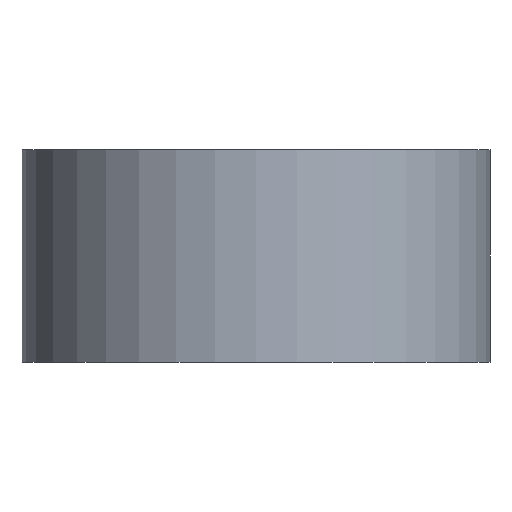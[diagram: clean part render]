
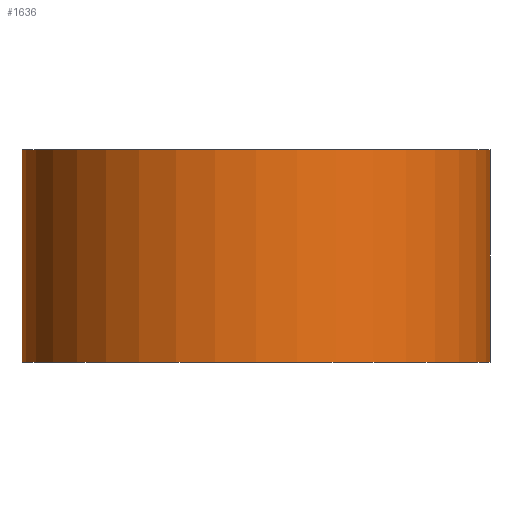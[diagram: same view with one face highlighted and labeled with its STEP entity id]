
A CAD part, front view. The second image highlights one B-rep face of the part: STEP entity #1636.
In plain terms, the highlighted cylindrical face has radius 16.5 mm (diameter 33 mm), a partial arc.
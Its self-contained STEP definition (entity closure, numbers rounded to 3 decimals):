
#6 = DIRECTION ( 'NONE',  ( 0., 0., -1. ) ) ;
#396 = CIRCLE ( 'NONE', #3217, 16.5 ) ;
#487 = LINE ( 'NONE', #1348, #517 ) ;
#514 = DIRECTION ( 'NONE',  ( 0., 0., -1. ) ) ;
#517 = VECTOR ( 'NONE', #514, 1000. ) ;
#666 = CARTESIAN_POINT ( 'NONE',  ( 0., 0., 0. ) ) ;
#860 = EDGE_LOOP ( 'NONE', ( #4641, #4460, #2536, #1599 ) ) ;
#1037 = AXIS2_PLACEMENT_3D ( 'NONE', #4220, #6, #1692 ) ;
#1051 = CARTESIAN_POINT ( 'NONE',  ( -16.5, 0., 2. ) ) ;
#1059 = DIRECTION ( 'NONE',  ( 0., 0., 1. ) ) ;
#1137 = DIRECTION ( 'NONE',  ( 1., 0., 0. ) ) ;
#1226 = AXIS2_PLACEMENT_3D ( 'NONE', #1374, #2193, #4327 ) ;
#1348 = CARTESIAN_POINT ( 'NONE',  ( 16.5, 0., 2. ) ) ;
#1374 = CARTESIAN_POINT ( 'NONE',  ( 0., 0., 15. ) ) ;
#1599 = ORIENTED_EDGE ( 'NONE', *, *, #3436, .T. ) ;
#1636 = ADVANCED_FACE ( 'NONE', ( #3796 ), #3140, .T. ) ;
#1646 = VERTEX_POINT ( 'NONE', #3502 ) ;
#1692 = DIRECTION ( 'NONE',  ( -1., 0., 0. ) ) ;
#1978 = EDGE_CURVE ( 'NONE', #5086, #3710, #2756, .T. ) ;
#2193 = DIRECTION ( 'NONE',  ( 0., 0., 1. ) ) ;
#2536 = ORIENTED_EDGE ( 'NONE', *, *, #1978, .T. ) ;
#2645 = CARTESIAN_POINT ( 'NONE',  ( 16.5, 0., 15. ) ) ;
#2756 = LINE ( 'NONE', #1051, #2969 ) ;
#2969 = VECTOR ( 'NONE', #4897, 1000. ) ;
#3140 = CYLINDRICAL_SURFACE ( 'NONE', #1037, 16.5 ) ;
#3217 = AXIS2_PLACEMENT_3D ( 'NONE', #666, #1059, #1137 ) ;
#3436 = EDGE_CURVE ( 'NONE', #3710, #1646, #396, .T. ) ;
#3502 = CARTESIAN_POINT ( 'NONE',  ( 16.5, 0., 0. ) ) ;
#3710 = VERTEX_POINT ( 'NONE', #3854 ) ;
#3796 = FACE_OUTER_BOUND ( 'NONE', #860, .T. ) ;
#3854 = CARTESIAN_POINT ( 'NONE',  ( -16.5, 0., 0. ) ) ;
#4220 = CARTESIAN_POINT ( 'NONE',  ( 0., 0., 2. ) ) ;
#4250 = CIRCLE ( 'NONE', #1226, 16.5 ) ;
#4327 = DIRECTION ( 'NONE',  ( 1., 0., 0. ) ) ;
#4460 = ORIENTED_EDGE ( 'NONE', *, *, #4987, .F. ) ;
#4641 = ORIENTED_EDGE ( 'NONE', *, *, #5043, .F. ) ;
#4642 = VERTEX_POINT ( 'NONE', #2645 ) ;
#4897 = DIRECTION ( 'NONE',  ( 0., 0., -1. ) ) ;
#4987 = EDGE_CURVE ( 'NONE', #5086, #4642, #4250, .T. ) ;
#5043 = EDGE_CURVE ( 'NONE', #4642, #1646, #487, .T. ) ;
#5086 = VERTEX_POINT ( 'NONE', #5188 ) ;
#5188 = CARTESIAN_POINT ( 'NONE',  ( -16.5, 0., 15. ) ) ;
